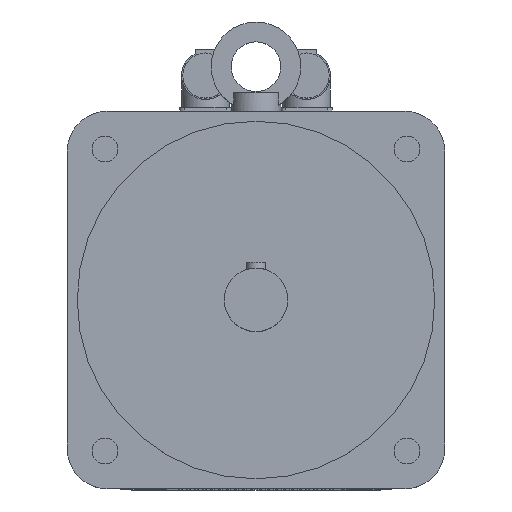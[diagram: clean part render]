
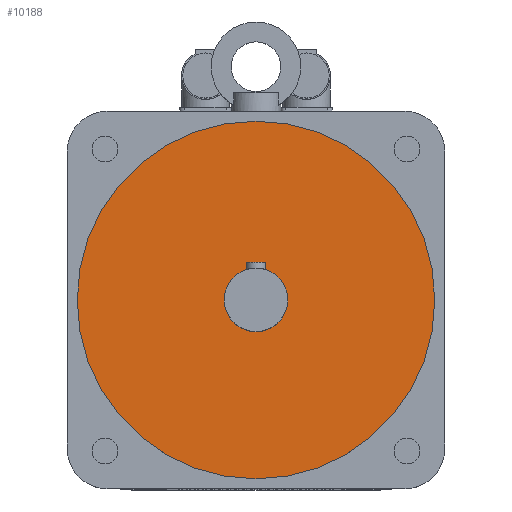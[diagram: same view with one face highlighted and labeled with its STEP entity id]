
A CAD part, top view. The second image highlights one B-rep face of the part: STEP entity #10188.
In plain terms, the highlighted planar face has unit normal (0, 0, 1).
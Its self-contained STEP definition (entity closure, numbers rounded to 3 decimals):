
#208=FACE_BOUND('',#973,.T.);
#290=FACE_OUTER_BOUND('',#972,.T.);
#972=EDGE_LOOP('',(#7169));
#973=EDGE_LOOP('',(#7170));
#1611=CIRCLE('',#10835,16.);
#1612=CIRCLE('',#10837,90.);
#4590=VERTEX_POINT('',#15520);
#4591=VERTEX_POINT('',#15523);
#5600=EDGE_CURVE('',#4590,#4590,#1611,.T.);
#5601=EDGE_CURVE('',#4591,#4591,#1612,.T.);
#7169=ORIENTED_EDGE('',*,*,#5601,.F.);
#7170=ORIENTED_EDGE('',*,*,#5600,.T.);
#9671=PLANE('',#10836);
#10188=ADVANCED_FACE('',(#290,#208),#9671,.T.);
#10835=AXIS2_PLACEMENT_3D('',#15521,#12180,#12181);
#10836=AXIS2_PLACEMENT_3D('',#15522,#12182,#12183);
#10837=AXIS2_PLACEMENT_3D('',#15524,#12184,#12185);
#12180=DIRECTION('center_axis',(0.,0.,-1.));
#12181=DIRECTION('ref_axis',(1.,0.,0.));
#12182=DIRECTION('center_axis',(0.,0.,1.));
#12183=DIRECTION('ref_axis',(1.,0.,0.));
#12184=DIRECTION('center_axis',(0.,0.,-1.));
#12185=DIRECTION('ref_axis',(1.,0.,0.));
#15520=CARTESIAN_POINT('',(0.,16.,322.));
#15521=CARTESIAN_POINT('Origin',(0.,0.,322.));
#15522=CARTESIAN_POINT('Origin',(0.,90.,322.));
#15523=CARTESIAN_POINT('',(0.,90.,322.));
#15524=CARTESIAN_POINT('Origin',(0.,0.,322.));
